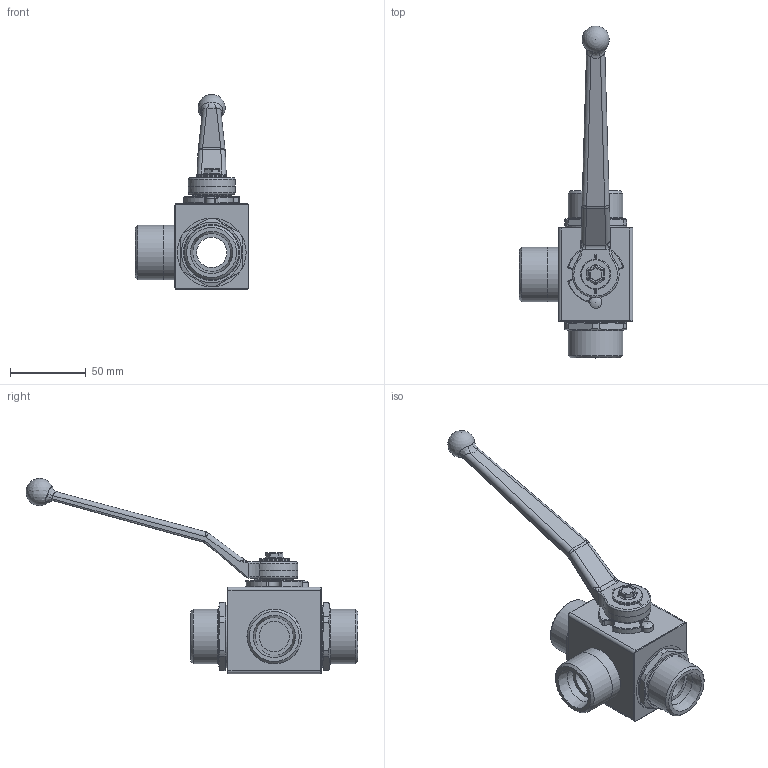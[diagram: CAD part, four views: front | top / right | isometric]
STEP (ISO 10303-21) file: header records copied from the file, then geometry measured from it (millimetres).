
FILE_DESCRIPTION( ( 'Unknown' ), '1' );
FILE_NAME( 'H:/PISTER/3D-MODELLE/BK3 stp/BK3 DN20 25S.stp', 'Unknown', ( 'Unknown' ), ( 'Unknown' ), 'PSStep 14.0', 'Unknown', ' ' );
FILE_SCHEMA( ( 'AUTOMOTIVE_DESIGN { 1 0 10303 214 1 1 1 1 }' ) );
Length unit declared in the file: millimetre
Products named in the file (11): Assem1; 10-025-001; 06-020-146-oa7; 09-14-001; 58-28740-13-oa8; Griff_SW14; 58-0933-147; 04-020-102-oa9; 04-020-102-oa10; 01-020-026-oa11; 04-020-055-oa12
Assembly tree (10 placements, depth 2):
  Assem1
    10-025-001
    06-020-146-oa7
    09-14-001
    58-28740-13-oa8
    Griff_SW14
    58-0933-147
    04-020-102-oa9
    04-020-102-oa10
    01-020-026-oa11
    04-020-055-oa12
Bounding box: 75 x 219.13 x 128.9 mm (x, y, z)
Volume: 97606.9 mm3; surface area: 63706.9 mm2
Topology: 10 solids, 10 shells, 388 faces, 961 edges, 587 vertices
Faces by surface type: plane 133, cylinder 131, torus 42, bspline 36, cone 32, sphere 14
Full cylindrical faces by diameter (mm): 5 x1, 6 x1, 6.5 x1, 7.98 x1, 20 x6, 20.2 x1, 25 x4, 36 x4, 36.1 x1, 38.3 x2, 41 x2, 45.5 x2
Entity records: 15900 total; most frequent: CARTESIAN_POINT 3939, DIRECTION 1853, ORIENTED_EDGE 1734, EDGE_CURVE 867, AXIS2_PLACEMENT_3D 763, VERTEX_POINT 566, EDGE_LOOP 474, FACE_OUTER_BOUND 425
